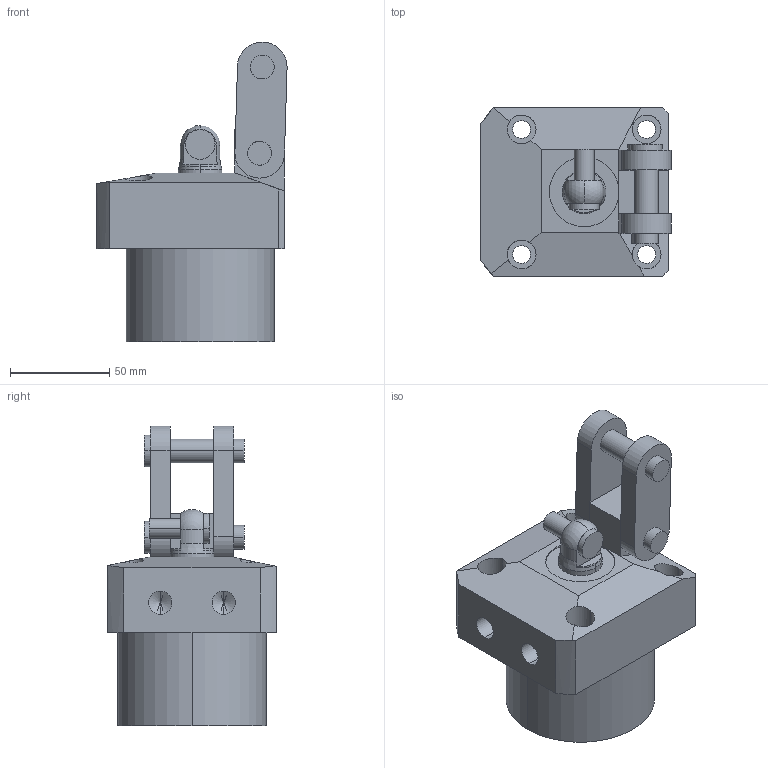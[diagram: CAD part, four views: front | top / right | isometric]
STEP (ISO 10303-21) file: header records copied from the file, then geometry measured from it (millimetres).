
FILE_DESCRIPTION (( 'STEP AP214' ), '1' );
FILE_NAME ('TC01-75-C.STEP', '2022-06-02T04:11:26', ( '' ), ( '' ), 'SwSTEP 2.0', 'SolidWorks 2019', '' );
FILE_SCHEMA (( 'AUTOMOTIVE_DESIGN' ));
Length unit declared in the file: inch
Products named in the file (7): piston-pin; 75 piston; CL06-0750-C; 75 link-pleate; 75-C ASSAMBLY; TC01-75-C; link-pin big
Assembly tree (8 placements, depth 3):
  TC01-75-C
    75-C ASSAMBLY
      CL06-0750-C
      75 piston
      75 link-pleate  x2
      link-pin big  x2
      piston-pin
Bounding box: 95.8 x 85 x 150.97 mm (x, y, z)
Volume: 518997.5 mm3; surface area: 73182.1 mm2
Topology: 7 solids, 7 shells, 124 faces, 301 edges, 195 vertices
Faces by surface type: cylinder 68, plane 48, cone 6, sphere 2
Entity records: 3520 total; most frequent: CARTESIAN_POINT 605, DIRECTION 580, ORIENTED_EDGE 508, EDGE_CURVE 254, AXIS2_PLACEMENT_3D 230, VERTEX_POINT 167, EDGE_LOOP 131, LINE 120
